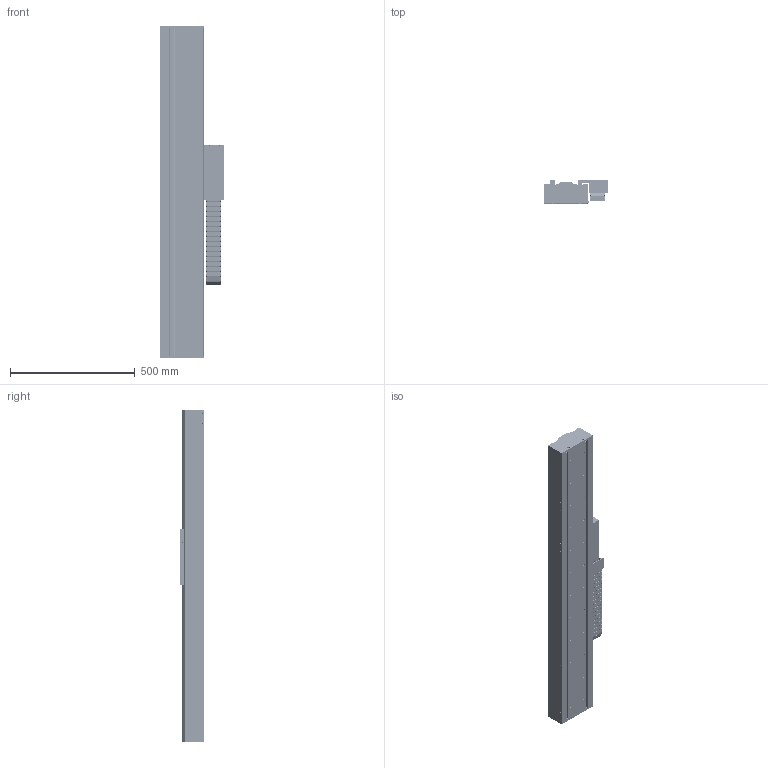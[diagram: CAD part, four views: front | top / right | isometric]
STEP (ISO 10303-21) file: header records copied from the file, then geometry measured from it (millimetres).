
FILE_DESCRIPTION (( 'STEP AP203' ), '1' );
FILE_NAME ('STF20120H-xC1B-Bxx.STEP', '2007-06-22T21:27:51', ( 'Yaskawa' ), ( 'Yaskawa' ), 'SwSTEP 2.0', 'SolidWorks 2007', '' );
FILE_SCHEMA (( 'CONFIG_CONTROL_DESIGN' ));
Products named in the file (60): 07.50.028.0_116; Bumper-Medium; STF2035-007 End Stop; 07.50.028.0_121; STF20-120 SSR15W Carriage-R2; Mult-SR15+580LY_008; 07.50.028.0_117; 07.50.028.0_118; 07.50.028.0_119; 07.50.028.0_122; 07.50.028.0_120; 07.50.028.0_123; 07.50.028.0_111; 07.50.028.0_105; STCM-001-R2 Cable Bracket; STCM-002-R2 Cable Assembly Front; STCM-003 Cable Assembly Bottom; End Stop with Bumper; STCM-004 Cable Assembly Side; STCM-005-R1 Cable Assembly Cover; STCM-006-R1 Upper E-chain Bracket; STF2035-010-02 Side Cover 2_H; Serial Converter; STF2035-006 Endplate; STF2035-009-02 Top Cover 2_H; STCM-007 Lower E-Chain Bracket; 07.50.028.0_98; STF20120H; STF20BM Base_STF20BM-008; 07.50.028.0_96; 07.50.028.0_97; 07.50.028.0_99; 07.50.028.0_100; 07.50.028.0_101; 07.50.028.0_102; 07.50.028.0_104; 07.50.028.0_106; 07.50.028.0_107; 07.50.028.0_108; Complete Carriage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
Assembly tree (79 placements, depth 4):
  STF20120H-xC1B-Bxx
    STF2035-010-02 Side Cover 2_H  x2
    STF20BM Base_STF20BM-008
      End Stop with Bumper  x4
        Bumper-Medium
        STF2035-007 End Stop
      Mult-SR15+580LY_008  x2
      SGLFM-20540AC
      STF20BM Base_STF20BM-008
      SGLFM-20324AC  x2
    STF2035-006 Endplate  x2
    Complete Carriage
      STCM-R1
        Serial Converter
        STCM-005-R1 Cable Assembly Cover
        STCM-001-R2 Cable Bracket
        STCM-002-R2 Cable Assembly Front
        STCM-003 Cable Assembly Bottom
        STCM-006-R1 Upper E-chain Bracket
        STCM-004 Cable Assembly Side
      STF20-120 SSR15W Carriage-R2
        SSR15W Block  x4
        SGLFW-20A120AP
        STF2035-005-R2 Cable Router
        STF2035-002A-R2 F2035 Carriage Horn  x2
        STF2035-001B F20-120 Carriage
        STF2035-004 Flag
        STF2035-003 Renishaw Encoder Mount
        RGH22B
    STF2035-009-02 Top Cover 2_H
    STCM-007 Lower E-Chain Bracket
    STF20120H
      07.50.028.0_105  x5
      07.50.028.0_113
      07.50.028.0_111  x6
      07.50.028.0_98
      07.50.028.0_100
      07.50.028.0_114
      07.50.028.0_104
      07.50.028.0_115
      07.50.028.0_123
      07.50.028.0_103
      07.50.028.0_122
      07.50.028.0_116
      07.50.028.0_118
      07.50.028.0_96
      07.50.028.0_112
      07.50.028.0_102
      07.50.028.0_120
      07.50.028.0_97
      07.50.028.0_99
      07.50.028.0_101
      07.50.028.0_106
      07.50.028.0_119
      07.50.028.0_108
      07.50.028.0_121
      07.50.028.0_109
      07.50.028.0_110
      07.50.028.0_117
      07.50.028.0_107
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Bounding box: 254.2 x 94.7 x 1329.05 mm (x, y, z)
Volume: 7655595.4 mm3; surface area: 2573818 mm2
Topology: 111 solids, 111 shells, 5990 faces, 15619 edges, 9991 vertices
Faces by surface type: plane 3014, cylinder 2494, cone 434, bspline 44, torus 4
Entity records: 136304 total; most frequent: DIRECTION 23000, CARTESIAN_POINT 22603, ORIENTED_EDGE 21412, EDGE_CURVE 10706, AXIS2_PLACEMENT_3D 8030, VERTEX_POINT 7020, LINE 6940, VECTOR 6940
